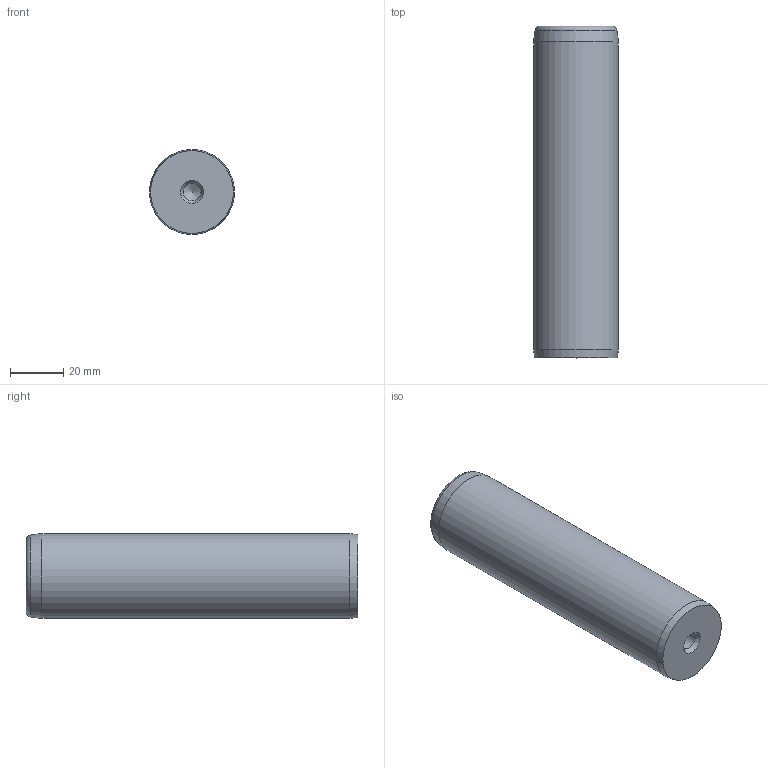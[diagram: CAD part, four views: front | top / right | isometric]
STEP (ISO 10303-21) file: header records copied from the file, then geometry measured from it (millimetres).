
FILE_DESCRIPTION( ( 'STEP AP203' ), '1' );
FILE_NAME( 'D:/Cuma/D14/D14_32125.step', '2003-01-18T23:23:05', ( ' ' ), ( ' ' ), 'XStep 1.0', ' ', ' ' );
FILE_SCHEMA( ( 'CONFIG_CONTROL_DESIGN' ) );
Length unit declared in the file: metre
Products named in the file (1): 1
Bounding box: 32 x 125 x 32 mm (x, y, z)
Volume: 98195.3 mm3; surface area: 15078.9 mm2
Topology: 1 solids, 1 shells, 14 faces, 29 edges, 17 vertices
Faces by surface type: cone 6, cylinder 5, plane 2, torus 1
Full cylindrical faces by diameter (mm): 6.75 x4, 32 x1
Entity records: 327 total; most frequent: DIRECTION 56, CARTESIAN_POINT 43, AXIS2_PLACEMENT_3D 28, EDGE_LOOP 26, ORIENTED_EDGE 26, FACE_OUTER_BOUND 20, VERTEX_POINT 15, ADVANCED_FACE 14
